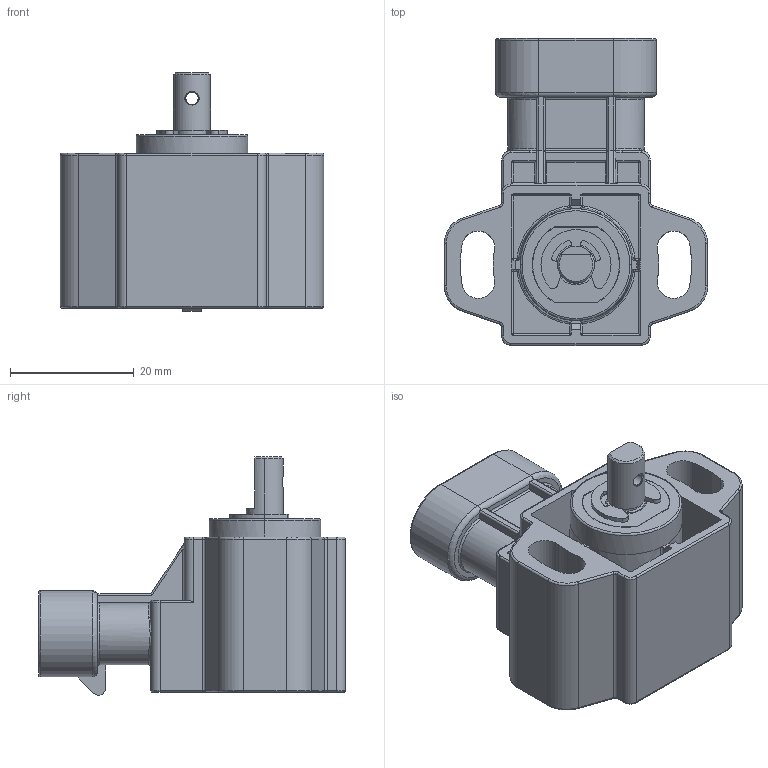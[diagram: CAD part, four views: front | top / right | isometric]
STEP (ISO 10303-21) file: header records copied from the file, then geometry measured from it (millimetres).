
FILE_DESCRIPTION (( 'STEP AP203' ), '1' );
FILE_NAME ('GR3PA S3E2MS xxx xxxx X0.STEP', '2024-12-19T14:43:09', ( '' ), ( '' ), 'SwSTEP 2.0', 'SolidWorks 2024', '' );
FILE_SCHEMA (( 'CONFIG_CONTROL_DESIGN' ));
Length unit declared in the file: millimetre
Products named in the file (1): GR3PA S3E2MS xxx xxxx X0
Bounding box: 42.5 x 49.5 x 38.47 mm (x, y, z)
Volume: 22627.4 mm3; surface area: 11785.9 mm2
Topology: 7 solids, 7 shells, 507 faces, 1227 edges, 732 vertices
Faces by surface type: cylinder 197, plane 176, torus 50, bspline 43, sphere 27, cone 14
Entity records: 17398 total; most frequent: CARTESIAN_POINT 5722, DIRECTION 2455, ORIENTED_EDGE 2410, EDGE_CURVE 1205, AXIS2_PLACEMENT_3D 926, VERTEX_POINT 732, VECTOR 603, LINE 603
